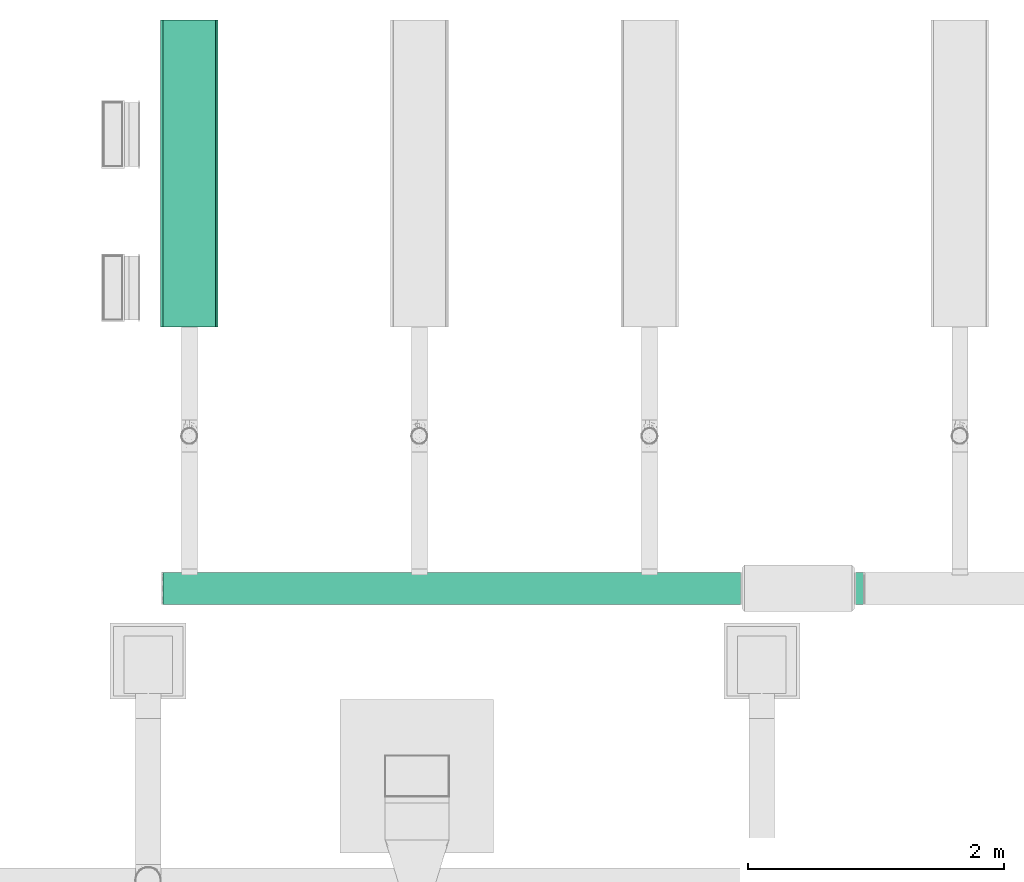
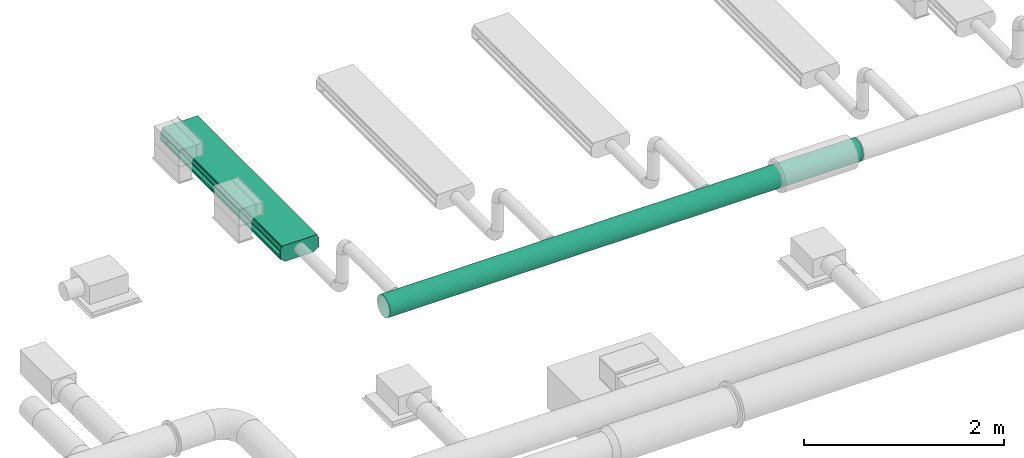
# One storey, part 7 of 36: 1 flow segment, 1 flow terminal.
"""IFC2X3 building model written with IfcOpenShell, lengths in millimetres."""

import ifcopenshell
import ifcopenshell.guid

model = None  # the IFC model being written
_history = None  # IfcOwnerHistory: only IFC2X3 demands one
_inside = {}  # id of a spatial element -> (the spatial element, [elements in it])
_under = {}  # id of a project, library or spatial element -> (it, [spatial elements below it])
_declared = {}  # id of a project -> (the project, [libraries it declares])
_typed = {}  # id of a type object -> (the type object, [elements of that type])
_made_of = {}  # id of a material, layer set ... -> (it, [elements and type objects made of it])


def new_model(schema):
    """Start an empty IFC model of exactly this schema.

    Asked for "IFC4X3", IfcOpenShell would pick the latest addendum, in which some entities
    have other attributes; the version numbers below select the first issue.
    IFC2X3 requires an IfcOwnerHistory on every rooted entity: one is made here for all.
    """
    global model, _history
    if schema == "IFC4X3":
        model = ifcopenshell.file(schema_version=(4, 3, 0, 0))
    else:
        model = ifcopenshell.file(schema=schema)
    _inside.clear()
    _under.clear()
    _declared.clear()
    _typed.clear()
    _made_of.clear()
    _history = None
    if model.schema == "IFC2X3":
        org = make("IfcOrganization", Name="unknown")
        user = make(
            "IfcPersonAndOrganization",
            ThePerson=make("IfcPerson", FamilyName="unknown"),
            TheOrganization=org,
        )
        app = make(
            "IfcApplication",
            ApplicationDeveloper=org,
            Version="unknown",
            ApplicationFullName="unknown",
            ApplicationIdentifier="unknown",
        )
        _history = make(
            "IfcOwnerHistory",
            OwningUser=user,
            OwningApplication=app,
            ChangeAction="ADDED",
            CreationDate=0,
        )
    return model


def make(cls, **values):
    """One entity of the class cls with the attributes given. An attribute that is None is left unset."""
    return model.create_entity(
        cls, **{name: value for name, value in values.items() if value is not None}
    )


def entity(cls, *values):
    """Any entity or typed value of the class cls, its attributes in the order of the schema. None: left unset."""
    e = model.create_entity(cls)
    for i, value in enumerate(values):
        if value is not None:
            e[i] = value
    return e


def rooted(cls, **values):
    """An entity with a GlobalId (a new one), such as an element, a storey or a relation."""
    return make(cls, GlobalId=ifcopenshell.guid.new(), OwnerHistory=_history, **values)


def si_unit(unit_type, name, prefix=None):
    """IfcSIUnit, for example si_unit("LENGTHUNIT", "METRE", prefix="MILLI")."""
    return make("IfcSIUnit", UnitType=unit_type, Prefix=prefix, Name=name)


def converted_unit(unit_type, name, factor, base, dimensions=None, offset=None):
    """IfcConversionBasedUnit, such as the inch: factor (a typed value) times the base unit."""
    return make(
        "IfcConversionBasedUnit"
        if offset is None
        else "IfcConversionBasedUnitWithOffset",
        ConversionOffset=offset,
        Dimensions=None
        if dimensions is None
        else entity("IfcDimensionalExponents", *dimensions),
        UnitType=unit_type,
        Name=name,
        ConversionFactor=make(
            "IfcMeasureWithUnit", ValueComponent=factor, UnitComponent=base
        ),
    )


def derived_unit(unit_type, elements):
    """IfcDerivedUnit: a product of units, each with its exponent."""
    return make(
        "IfcDerivedUnit",
        Elements=[
            make("IfcDerivedUnitElement", Unit=unit, Exponent=power)
            for unit, power in elements
        ],
        UnitType=unit_type,
    )


def assignment(units):
    """IfcUnitAssignment: the units of a project."""
    return None if units is None else make("IfcUnitAssignment", Units=units)


def point(xyz):
    """IfcCartesianPoint."""
    return None if xyz is None else make("IfcCartesianPoint", Coordinates=xyz)


def direction(xyz):
    """IfcDirection."""
    return None if xyz is None else make("IfcDirection", DirectionRatios=xyz)


def frame(location, z_axis=None, x_axis=None):
    """IfcAxis2Placement3D, a coordinate frame: its origin and axes. An axis left out is left unset."""
    return make(
        "IfcAxis2Placement3D",
        Location=point(location),
        Axis=direction(z_axis),
        RefDirection=direction(x_axis),
    )


def frame_2d(location, x_axis=None):
    """IfcAxis2Placement2D, a coordinate frame in the plane: its origin and x axis."""
    return make(
        "IfcAxis2Placement2D", Location=point(location), RefDirection=direction(x_axis)
    )


def origin_with_axes():
    """The frame at (0, 0, 0) with the z axis (0, 0, 1) and the x axis (1, 0, 0) written out."""
    return frame((0.0, 0.0, 0.0), z_axis=(0.0, 0.0, 1.0), x_axis=(1.0, 0.0, 0.0))


def origin_2d_with_axis():
    """The frame at (0, 0) in the plane with the x axis (1, 0) written out."""
    return frame_2d((0.0, 0.0), x_axis=(1.0, 0.0))


def place(relative_to, where):
    """IfcLocalPlacement: puts the frame where relative to a parent placement (None: the world)."""
    return make(
        "IfcLocalPlacement", PlacementRelTo=relative_to, RelativePlacement=where
    )


def context(
    kind, dimensions, precision=None, world=None, true_north=None, identifier=None
):
    """IfcGeometricRepresentationContext, for example the 3D "Model" context."""
    return make(
        "IfcGeometricRepresentationContext",
        ContextIdentifier=identifier,
        ContextType=kind,
        CoordinateSpaceDimension=dimensions,
        Precision=precision,
        WorldCoordinateSystem=world,
        TrueNorth=true_north,
    )


def subcontext(parent, identifier, kind, view, scale=None):
    """IfcGeometricRepresentationSubContext, for example "Body" below "Model"."""
    return make(
        "IfcGeometricRepresentationSubContext",
        ContextIdentifier=identifier,
        ContextType=kind,
        ParentContext=parent,
        TargetScale=scale,
        TargetView=view,
    )


def project(units=None, contexts=None):
    """IfcProject with its units and contexts."""
    return rooted(
        "IfcProject",
        Name="project",
        RepresentationContexts=contexts,
        UnitsInContext=assignment(units),
    )


def spatial(cls, under=None, at=None, **own):
    """A site, building, storey or space (cls), placed at a placement, below another one or the project."""
    s = rooted(cls, ObjectPlacement=at, **own)
    if under is not None:
        _under.setdefault(under.id(), (under, []))[1].append(s)
    return s


def profile(cls, at=None, kind="AREA", **sizes):
    """A parametric profile (cls). Its sizes go by their IFC names, for example OverallWidth=200.0."""
    return make(cls, ProfileType=kind, Position=at, **sizes)


def hollow_circle(**sizes):
    """IfcCircleHollowProfileDef."""
    return profile("IfcCircleHollowProfileDef", **sizes)


def extrude(swept, where, along, depth):
    """IfcExtrudedAreaSolid: the profile swept, set in the frame where, extruded along a direction by depth."""
    return make(
        "IfcExtrudedAreaSolid",
        SweptArea=swept,
        Position=where,
        ExtrudedDirection=direction(along),
        Depth=depth,
    )


def faces_of(points, faces, orient=None, outer=None):
    """IfcFace entities. A face is a list of loops; a loop is a list of indices into points, from 0.

    orient and outer hold one flag for each loop. By default every Orientation is true, the
    first loop of a face is its IfcFaceOuterBound and the others are IfcFaceBound.
    """
    made = []
    for i, loops in enumerate(faces):
        bounds = []
        for j, loop in enumerate(loops):
            is_outer = j == 0 if outer is None else outer[i][j]
            bounds.append(
                make(
                    "IfcFaceOuterBound" if is_outer else "IfcFaceBound",
                    Bound=make("IfcPolyLoop", Polygon=[points[k] for k in loop]),
                    Orientation=True if orient is None else orient[i][j],
                )
            )
        made.append(make("IfcFace", Bounds=bounds))
    return made


def open_shell(faces, orient=None, outer=None):
    """The faces of one IfcOpenShell. surface_model builds it on its shared points."""
    return ("IfcOpenShell", faces, orient, outer)


def surface_model(cls, points, shells):
    """IfcFaceBasedSurfaceModel or IfcShellBasedSurfaceModel (cls): surfaces that need not close."""
    shared = [point(p) for p in points]
    made = [make(c, CfsFaces=faces_of(shared, fs, o, b)) for c, fs, o, b in shells]
    if cls == "IfcFaceBasedSurfaceModel":
        return make(cls, FbsmFaces=made)
    return make(cls, SbsmBoundary=made)


def shape(context_of_items, identifier, shape_type, items):
    """IfcShapeRepresentation: the items that make up one representation, for example the "Body"."""
    return make(
        "IfcShapeRepresentation",
        ContextOfItems=context_of_items,
        RepresentationIdentifier=identifier,
        RepresentationType=shape_type,
        Items=items,
    )


def source(mapping_origin, context_of_items, identifier, shape_type, items):
    """IfcRepresentationMap: a shape defined once, which mapped items show again and again."""
    return make(
        "IfcRepresentationMap",
        MappingOrigin=mapping_origin,
        MappedRepresentation=shape(context_of_items, identifier, shape_type, items),
    )


def transform(
    local_origin,
    x_axis=None,
    y_axis=None,
    z_axis=None,
    scale=None,
    scale2=None,
    scale3=None,
    uniform=True,
):
    """IfcCartesianTransformationOperator3D, or its non-uniform kind. x_axis, y_axis, z_axis: its Axis1, 2, 3."""
    if uniform:
        return make(
            "IfcCartesianTransformationOperator3D",
            Axis1=direction(x_axis),
            Axis2=direction(y_axis),
            LocalOrigin=point(local_origin),
            Scale=scale,
            Axis3=direction(z_axis),
        )
    return make(
        "IfcCartesianTransformationOperator3DnonUniform",
        Axis1=direction(x_axis),
        Axis2=direction(y_axis),
        LocalOrigin=point(local_origin),
        Scale=scale,
        Axis3=direction(z_axis),
        Scale2=scale2,
        Scale3=scale3,
    )


def mapped(mapping_source, mapping_target):
    """IfcMappedItem: shows the shape of a source again, moved by a transform."""
    return make(
        "IfcMappedItem", MappingSource=mapping_source, MappingTarget=mapping_target
    )


def made_of(thing, what):
    """Note that an element or type object is made of a material, layer set ...; save() writes the relation."""
    if what is not None:
        _made_of.setdefault(what.id(), (what, []))[1].append(thing)
    return thing


def type_object(cls, material=None, **own):
    """A type object (cls), such as IfcWallType, which elements share."""
    return made_of(rooted(cls, **own), material)


def element(
    cls,
    number,
    at=None,
    inside=None,
    cuts=None,
    type_object=None,
    material=None,
    context=None,
    identifier="Body",
    shape_type=None,
    held_by="IfcProductDefinitionShape",
    body=None,
    shapes=None,
    **own,
):
    """One element of the class cls, such as IfcWall. Its Tag is "e" and its number.

    at: its placement. inside: the storey or other place that contains it. cuts: it is an
    opening in that element (IfcRelVoidsElement). A single representation is given by context,
    identifier, shape_type and body (its items); several are given by shapes. held_by: the class
    of the entity that holds the representations. save() writes the other relations.
    """
    e = rooted(cls, Tag="e%d" % number, ObjectPlacement=at, **own)
    if body is not None:
        shapes = [shape(context, identifier, shape_type, body)]
    if shapes is not None:
        e.Representation = make(held_by, Representations=shapes)
    if inside is not None:
        _inside.setdefault(inside.id(), (inside, []))[1].append(e)
    if cuts is not None:
        rooted(
            "IfcRelVoidsElement", RelatingBuildingElement=cuts, RelatedOpeningElement=e
        )
    if type_object is not None:
        _typed.setdefault(type_object.id(), (type_object, []))[1].append(e)
    return made_of(e, material)


def aggregate(whole, parts):
    """IfcRelAggregates: a whole, such as a stair, and the parts it consists of."""
    return rooted("IfcRelAggregates", RelatingObject=whole, RelatedObjects=parts)


def save(model, path):
    """Write the relations noted so far, then the file.

    IfcRelAggregates (storeys below a building ...), IfcRelContainedInSpatialStructure (elements
    in a storey), IfcRelDefinesByType, IfcRelAssociatesMaterial and IfcRelDeclares: one each for
    every whole, place, type object, material and project.
    """
    for whole, parts in _under.values():
        aggregate(whole, parts)
    for where, things in _inside.values():
        rooted(
            "IfcRelContainedInSpatialStructure",
            RelatedElements=things,
            RelatingStructure=where,
        )
    for kind, things in _typed.values():
        rooted("IfcRelDefinesByType", RelatedObjects=things, RelatingType=kind)
    for what, things in _made_of.values():
        rooted("IfcRelAssociatesMaterial", RelatedObjects=things, RelatingMaterial=what)
    for by, libraries in _declared.values():
        rooted("IfcRelDeclares", RelatingContext=by, RelatedDefinitions=libraries)
    model.write(path)


model = new_model("IFC2X3")

# Units and contexts
model_context = context("Model", 3, precision=0.01, world=frame((0.0, 4.29681676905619e-09, 0.0)), true_north=direction((4.01073788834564e-13, 1.0)))
plan_context = context("Plan", 3, precision=0.01, world=frame((0.0, 4.29681676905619e-09, 0.0)), true_north=direction((4.01073788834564e-13, 1.0)))
body_context = subcontext(model_context, "Body", "Model", "MODEL_VIEW")
ifc_project = project(units=[converted_unit("PLANEANGLEUNIT", "DEGREE", entity("IfcPositiveLengthMeasure", 0.0174532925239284), si_unit("PLANEANGLEUNIT", "RADIAN"), dimensions=[0, 0, 0, 0, 0, 0, 0]), si_unit("AREAUNIT", "SQUARE_METRE"), si_unit("LENGTHUNIT", "METRE", prefix="MILLI"), si_unit("MASSUNIT", "GRAM", prefix="KILO"), si_unit("POWERUNIT", "WATT"), si_unit("PRESSUREUNIT", "PASCAL"), si_unit("FORCEUNIT", "NEWTON", prefix="KILO"), si_unit("ELECTRICCURRENTUNIT", "AMPERE"), si_unit("THERMODYNAMICTEMPERATUREUNIT", "DEGREE_CELSIUS"), si_unit("TIMEUNIT", "SECOND"), si_unit("VOLUMEUNIT", "CUBIC_METRE"), derived_unit("LINEARVELOCITYUNIT", [(si_unit("LENGTHUNIT", "METRE"), 1), (si_unit("TIMEUNIT", "SECOND"), -1)]), derived_unit("VOLUMETRICFLOWRATEUNIT", [(si_unit("VOLUMEUNIT", "CUBIC_METRE"), 1), (si_unit("TIMEUNIT", "SECOND"), -1)]), derived_unit("THERMALTRANSMITTANCEUNIT", [(si_unit("POWERUNIT", "WATT"), 1), (si_unit("THERMODYNAMICTEMPERATUREUNIT", "KELVIN"), -1), (si_unit("AREAUNIT", "SQUARE_METRE"), -1)])], contexts=[model_context, plan_context])

# Site, building, storey
site_placement = place(None, frame((0.0, -4.29681676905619e-09, 0.0), z_axis=(0.0, 0.0, 1.0), x_axis=(1.0, 0.0, 0.0)))
site = spatial("IfcSite", under=ifc_project, at=site_placement, CompositionType="ELEMENT")
building_placement = place(site_placement, frame((0.0, 4.29681676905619e-09, 0.0), z_axis=(0.0, 0.0, 1.0), x_axis=(1.0, 0.0, 0.0)))
building = spatial("IfcBuilding", under=site, at=building_placement, Name="mc-building", CompositionType="ELEMENT")
storey_placement = place(building_placement, frame((0.0, 0.0, 204000.0), z_axis=(0.0, 0.0, 1.0), x_axis=(1.0, 0.0, 0.0)))
storey = spatial("IfcBuildingStorey", under=building, at=storey_placement, Name="Nivå D", CompositionType="ELEMENT", Elevation=204000.0)

# Flow segment
duct_segment_type = type_object("IfcDuctSegmentType", Name="2 - Spiro kanaler, Forsinket stål", PredefinedType="RIGIDSEGMENT")
shared_shape_1 = source(origin_with_axes(), body_context, "Body", "SweptSolid", [
    extrude(hollow_circle(Radius=125.0, WallThickness=2.0, at=origin_2d_with_axis()), frame((0.0, 0.0, 0.0), z_axis=(1.0, 0.0, 0.0), x_axis=(0.0, 1.0, 0.0)), (0.0, 0.0, 1.0), 5478.8),
])
flow_segment_placement = place(storey_placement, frame((521012.54222, 416568.96658, 3200.0), z_axis=(0.0, 0.0, 1.0), x_axis=(1.0, 0.0, 0.0)))
element("IfcFlowSegment", 1, at=flow_segment_placement, inside=storey, type_object=duct_segment_type, Name="2 - Spiro kanaler, Forsinket stål", context=body_context, shape_type="MappedRepresentation", body=[
    mapped(shared_shape_1, transform((0.0, 0.0, 0.0), scale=1.0)),
])

# Flow terminal
air_terminal_type = type_object("IfcAirTerminalType", Name="KBF-1-450-2400-A", PredefinedType="NOTDEFINED")
shared_shape_2 = source(origin_with_axes(), body_context, "Body", "SurfaceModel", [
    surface_model("IfcShellBasedSurfaceModel", [(1159.99998, 155.0, -200.1), (-1159.99998, -155.0, -200.1), (-1159.99998, 155.0, -200.1), (1159.99998, -155.0, -200.1), (-1159.99998, -155.0, -199.90001), (1159.99998, -155.0, -199.90001), (1159.99998, 155.0, -199.90001), (-1159.99998, 155.0, -199.90001), (1189.99997, -164.99999, -197.9), (1189.99997, 164.99999, -197.9), (1188.00001, 164.99999, -197.9), (1188.00001, -164.99999, -197.9), (1188.00001, 164.99999, -198.10001), (1189.99997, -164.99999, -198.10001), (1188.00001, -164.99999, -198.10001), (1189.99997, 164.99999, -198.10001), (1187.90002, 164.99999, -200.0), (1187.90002, -164.99999, -200.0), (1187.90002, -164.99999, -198.0), (1187.90002, 164.99999, -198.0), (1188.10001, -164.99999, -198.0), (1188.10001, 164.99999, -200.0), (1188.10001, 164.99999, -198.0), (1188.10001, -164.99999, -200.0), (1189.89997, 164.99999, -200.0), (1189.89997, -164.99999, -200.0), (1189.89997, -164.99999, -198.0), (1189.89997, 164.99999, -198.0), (1190.10003, -164.99999, -198.0), (1190.10003, 164.99999, -200.0), (1190.10003, 164.99999, -198.0), (1190.10003, -164.99999, -200.0), (1200.0, -164.99999, -199.90001), (1200.0, 164.99999, -199.90001), (1189.99997, 164.99999, -199.90001), (1189.99997, -164.99999, -199.90001), (1189.99997, 164.99999, -200.1), (1200.0, -164.99999, -200.1), (1189.99997, -164.99999, -200.1), (1200.0, 164.99999, -200.1), (-1189.99997, -164.99999, -198.10001), (-1189.99997, 164.99999, -198.10001), (-1188.00001, 164.99999, -198.10001), (-1188.00001, -164.99999, -198.10001), (-1188.00001, 164.99999, -197.9), (-1189.99997, -164.99999, -197.9), (-1188.00001, -164.99999, -197.9), (-1189.99997, 164.99999, -197.9), (-1188.10001, 164.99999, -200.0), (-1188.10001, -164.99999, -200.0), (-1188.10001, -164.99999, -198.0), (-1188.10001, 164.99999, -198.0), (-1187.90002, -164.99999, -198.0), (-1187.90002, 164.99999, -200.0), (-1187.90002, 164.99999, -198.0), (-1187.90002, -164.99999, -200.0), (-1190.10003, 164.99999, -200.0), (-1190.10003, -164.99999, -200.0), (-1190.10003, -164.99999, -198.0), (-1190.10003, 164.99999, -198.0), (-1189.89997, -164.99999, -198.0), (-1189.89997, 164.99999, -200.0), (-1189.89997, 164.99999, -198.0), (-1189.89997, -164.99999, -200.0), (-1200.0, -164.99999, -200.1), (-1200.0, 164.99999, -200.1), (-1189.99997, 164.99999, -200.1), (-1189.99997, -164.99999, -200.1), (-1189.99997, 164.99999, -199.90001), (-1200.0, -164.99999, -199.90001), (-1189.99997, -164.99999, -199.90001), (-1200.0, 164.99999, -199.90001), (1188.00001, -164.99999, -199.90001), (1188.00001, 164.99999, -199.90001), (1159.99998, 164.99999, -199.90001), (1159.99998, -164.99999, -199.90001), (1159.99998, 164.99999, -200.1), (1188.00001, -164.99999, -200.1), (1159.99998, -164.99999, -200.1), (1188.00001, 164.99999, -200.1), (-1188.00001, -164.99999, -200.1), (-1188.00001, 164.99999, -200.1), (-1159.99998, 164.99999, -200.1), (-1159.99998, -164.99999, -200.1), (-1159.99998, 164.99999, -199.90001), (-1188.00001, -164.99999, -199.90001), (-1159.99998, -164.99999, -199.90001), (-1188.00001, 164.99999, -199.90001), (1189.99997, -224.90001, -155.0), (-1189.99997, -224.90001, -155.0), (-1189.99997, -224.90001, -135.0), (1189.99997, -224.90001, -135.0), (-1189.99997, -225.1, -155.0), (1189.99997, -225.1, -155.0), (1189.99997, -225.1, -135.0), (-1189.99997, -225.1, -135.0), (1189.99997, 225.1, -155.0), (-1189.99997, 225.1, -155.0), (-1189.99997, 225.1, -135.0), (1189.99997, 225.1, -135.0), (-1189.99997, 224.90001, -155.0), (1189.99997, 224.90001, -155.0), (1189.99997, 224.90001, -135.0), (-1189.99997, 224.90001, -135.0), (-1200.0, -224.91885, -45.05843), (1200.0, -206.91884, -20.05843), (1200.0, -224.91885, -45.05843), (-1200.0, -206.91884, -20.05843), (1200.0, -225.08116, -44.94157), (-1200.0, -207.08115, -19.94157), (-1200.0, -225.08116, -44.94157), (1200.0, -207.08115, -19.94157), (-1200.0, 225.08116, -44.94157), (1200.0, 207.08115, -19.94157), (1200.0, 225.08116, -44.94157), (-1200.0, 207.08115, -19.94157), (1200.0, 224.91885, -45.05843), (-1200.0, 206.91884, -20.05843), (-1200.0, 224.91885, -45.05843), (1200.0, 206.91884, -20.05843), (1200.0, -224.90001, -155.0), (1189.99997, -224.90001, -45.0), (1200.0, -224.90001, -45.0), (1189.99997, -225.1, -45.0), (1200.0, -225.1, -155.0), (1200.0, -225.1, -45.0), (1200.0, 225.1, -155.0), (1189.99997, 225.1, -45.0), (1200.0, 225.1, -45.0), (1189.99997, 224.90001, -45.0), (1200.0, 224.90001, -155.0), (1200.0, 224.90001, -45.0), (-1200.0, -224.90001, -155.0), (-1200.0, -224.90001, -45.0), (-1189.99997, -224.90001, -45.0), (-1200.0, -225.1, -45.0), (-1189.99997, -225.1, -45.0), (-1200.0, -225.1, -155.0), (-1200.0, 225.1, -155.0), (-1200.0, 225.1, -45.0), (-1189.99997, 225.1, -45.0), (-1200.0, 224.90001, -45.0), (-1189.99997, 224.90001, -45.0), (-1200.0, 224.90001, -155.0), (1189.99997, -224.90001, -65.0), (-1189.99997, -224.90001, -65.0), (-1189.99997, -225.1, -65.0), (1189.99997, -225.1, -65.0), (1189.99997, 225.1, -65.0), (-1189.99997, 225.1, -65.0), (-1189.99997, 224.90001, -65.0), (1189.99997, 224.90001, -65.0), (1188.00001, -222.9411, -154.91918), (1189.99997, -163.9411, -197.91919), (1188.00001, -163.9411, -197.91919), (1189.99997, -222.9411, -154.91918), (1189.99997, -164.0589, -198.08081), (1189.99997, -223.0589, -155.08081), (1188.00001, -223.0589, -155.08081), (1188.00001, -164.0589, -198.08081), (1188.10001, -223.0, -155.0), (1188.10001, -161.0, -200.0), (1188.10001, -225.0, -155.0), (1187.90002, -225.0, -155.0), (1187.90002, -223.0, -155.0), (1187.90002, -161.0, -200.0), (1190.10003, -223.0, -155.0), (1190.10003, -161.0, -200.0), (1190.10003, -225.0, -155.0), (1189.89997, -225.0, -155.0), (1189.89997, -223.0, -155.0), (1189.89997, -161.0, -200.0), (1189.99997, -164.94, -199.91999), (1200.0, -224.93999, -154.92), (1200.0, -164.94, -199.91999), (1189.99997, -224.93999, -154.92), (1200.0, -225.06001, -155.08), (1189.99997, -225.06001, -155.08), (1189.99997, -165.06, -200.07999), (1200.0, -165.06, -200.07999), (-1189.67782, -222.37004, -154.10665), (-1187.94965, -162.94966, -197.92976), (-1189.94968, -160.94966, -197.92976), (-1187.94965, -222.94967, -154.92977), (-1188.0503, -163.05033, -198.07023), (-1188.0503, -223.05034, -155.07024), (-1189.77847, -222.4707, -154.24713), (-1190.05033, -161.05033, -198.07023), (-1189.89997, -223.0, -155.0), (-1189.89997, -161.0, -200.0), (-1189.89997, -225.0, -155.0), (-1190.10003, -225.0, -155.0), (-1190.10003, -223.0, -155.0), (-1190.10003, -161.0, -200.0), (-1187.90002, -223.0, -155.0), (-1187.90002, -161.0, -200.0), (-1187.90002, -225.0, -155.0), (-1188.10001, -225.0, -155.0), (-1188.10001, -223.0, -155.0), (-1188.10001, -161.0, -200.0), (-1200.0, -224.93999, -154.92), (-1189.99997, -224.93999, -154.92), (-1189.99997, -164.94, -199.91999), (-1200.0, -164.94, -199.91999), (-1189.99997, -225.06001, -155.08), (-1200.0, -225.06001, -155.08), (-1200.0, -165.06, -200.07999), (-1189.99997, -165.06, -200.07999), (-1188.00001, -164.94, -199.91999), (1188.00001, -224.93999, -154.92), (1188.00001, -164.94, -199.91999), (-1188.00001, -224.93999, -154.92), (1188.00001, -225.06001, -155.08), (-1188.00001, -225.06001, -155.08), (-1188.00001, -165.06, -200.07999), (1188.00001, -165.06, -200.07999), (1188.00001, 223.0589, -155.08081), (1189.99997, 164.0589, -198.08081), (1188.00001, 164.0589, -198.08081), (1189.99997, 223.0589, -155.08081), (1189.99997, 163.9411, -197.91919), (1189.99997, 222.9411, -154.91918), (1188.00001, 222.9411, -154.91918), (1188.00001, 163.9411, -197.91919), (1187.90002, 223.0, -155.0), (1187.90002, 161.0, -200.0), (1187.90002, 225.0, -155.0), (1188.10001, 225.0, -155.0), (1188.10001, 223.0, -155.0), (1188.10001, 161.0, -200.0), (1189.89997, 223.0, -155.0), (1189.89997, 161.0, -200.0), (1189.89997, 225.0, -155.0), (1190.10003, 225.0, -155.0), (1190.10003, 223.0, -155.0), (1190.10003, 161.0, -200.0), (1189.99997, 165.06, -200.07999), (1200.0, 225.06001, -155.08), (1200.0, 165.06, -200.07999), (1189.99997, 225.06001, -155.08), (1200.0, 224.93999, -154.92), (1189.99997, 224.93999, -154.92), (1189.99997, 164.94, -199.91999), (1200.0, 164.94, -199.91999), (-1189.77847, 222.4707, -154.24713), (-1188.0503, 163.05033, -198.07023), (-1190.05033, 161.05033, -198.07023), (-1188.0503, 223.05034, -155.07024), (-1187.94965, 162.94966, -197.92976), (-1187.94965, 222.94967, -154.92977), (-1189.67782, 222.37004, -154.10665), (-1189.94968, 160.94966, -197.92976), (-1190.10003, 223.0, -155.0), (-1190.10003, 161.0, -200.0), (-1190.10003, 225.0, -155.0), (-1189.89997, 225.0, -155.0), (-1189.89997, 223.0, -155.0), (-1189.89997, 161.0, -200.0), (-1188.10001, 223.0, -155.0), (-1188.10001, 161.0, -200.0), (-1188.10001, 225.0, -155.0), (-1187.90002, 225.0, -155.0), (-1187.90002, 223.0, -155.0), (-1187.90002, 161.0, -200.0), (-1200.0, 225.06001, -155.08), (-1189.99997, 225.06001, -155.08), (-1189.99997, 165.06, -200.07999), (-1200.0, 165.06, -200.07999), (-1189.99997, 224.93999, -154.92), (-1200.0, 224.93999, -154.92), (-1200.0, 164.94, -199.91999), (-1189.99997, 164.94, -199.91999), (-1188.00001, 165.06, -200.07999), (1188.00001, 225.06001, -155.08), (1188.00001, 165.06, -200.07999), (-1188.00001, 225.06001, -155.08), (1188.00001, 224.93999, -154.92), (-1188.00001, 224.93999, -154.92), (-1188.00001, 164.94, -199.91999), (1188.00001, 164.94, -199.91999), (1200.0, -205.0, -19.9), (-1200.0, -205.0, -19.9), (-1200.0, -206.99999, -19.9), (1200.0, -206.99999, -19.9), (-1200.0, -205.0, -20.1), (1200.0, -205.0, -20.1), (1200.0, -206.99999, -20.1), (-1200.0, -206.99999, -20.1), (1200.0, 205.0, -20.1), (-1200.0, 205.0, -20.1), (-1200.0, 206.99999, -20.1), (1200.0, 206.99999, -20.1), (-1200.0, 205.0, -19.9), (1200.0, 205.0, -19.9), (1200.0, 206.99999, -19.9), (-1200.0, 206.99999, -19.9), (1199.90002, -164.99999, -200.0), (1199.90002, 225.0, -155.0), (1199.90002, 164.99999, -200.0), (1199.90002, -225.0, -155.0), (1200.1, 225.0, -155.0), (1200.1, -225.0, -155.0), (1200.1, -164.99999, -200.0), (1200.1, 164.99999, -200.0), (-1200.1, -164.99999, -200.0), (-1200.1, 225.0, -155.0), (-1200.1, 164.99999, -200.0), (-1200.1, -225.0, -155.0), (-1199.90002, 225.0, -155.0), (-1199.90002, -225.0, -155.0), (-1199.90002, -164.99999, -200.0), (-1199.90002, 164.99999, -200.0), (1199.90002, -225.0, -45.0), (1199.90002, 225.0, -45.0), (1200.1, -225.0, -45.0), (1200.1, 225.0, -45.0), (-1200.1, -225.0, -45.0), (-1200.1, 225.0, -45.0), (-1199.90002, -225.0, -45.0), (-1199.90002, 225.0, -45.0), (1199.90002, 206.99999, -20.0), (1199.90002, -206.99999, -20.0), (1200.1, 206.99999, -20.0), (1200.1, -206.99999, -20.0), (-1200.1, 206.99999, -20.0), (-1200.1, -206.99999, -20.0), (-1199.90002, 206.99999, -20.0), (-1199.90002, -206.99999, -20.0), (-1200.0, -16.12443, -152.17718), (-1200.0, 31.15, -145.95338), (-1200.0, -31.15, -145.95338), (-1200.0, -44.05275, -136.05275), (-1200.0, -53.95338, -123.15), (-1200.0, -60.17718, -108.12442), (-1200.0, 60.17718, -108.12442), (-1200.0, 60.17718, -75.87557), (-1200.0, 16.12443, -152.17718), (-1200.0, 0.0, -154.29999), (-1200.0, 44.05275, -136.05275), (-1200.0, 53.95338, -123.15), (-1200.0, -60.17718, -75.87557), (-1200.0, -62.3, -92.0), (-1200.0, -44.05275, -47.94725), (-1200.0, -53.95338, -60.85), (-1200.0, -31.15, -38.04662), (-1200.0, 0.0, -29.7), (-1200.0, -16.12443, -31.82282), (-1200.0, 44.05275, -47.94725), (-1200.0, 53.95338, -60.85), (-1200.0, 62.3, -92.0), (-1200.0, 31.15, -38.04662), (-1200.0, 16.12443, -31.82282), (-1200.2, -31.15, -38.04662), (-1200.2, -16.12443, -31.82282), (-1200.2, 0.0, -29.7), (-1200.2, 60.17718, -75.87557), (-1200.2, -60.17718, -75.87557), (-1200.2, -53.95338, -60.85), (-1200.2, -44.05275, -47.94725), (-1200.2, 62.3, -92.0), (-1200.2, 31.15, -38.04662), (-1200.2, 44.05275, -47.94725), (-1200.2, 16.12443, -31.82282), (-1200.2, 53.95338, -60.85), (-1200.2, -62.3, -92.0), (-1200.2, 31.15, -145.95338), (-1200.2, -60.17718, -108.12442), (-1200.2, -53.95338, -123.15), (-1200.2, -31.15, -145.95338), (-1200.2, -44.05275, -136.05275), (-1200.2, 16.12443, -152.17718), (-1200.2, -16.12443, -152.17718), (-1200.2, 44.05275, -136.05275), (-1200.2, 53.95338, -123.15), (-1200.2, 60.17718, -108.12442), (-1200.2, 0.0, -154.29999), (1200.0, 205.0, 0.0), (-1200.0, 205.0, 0.0), (-1200.0, -205.0, 0.0), (1200.0, -205.0, 0.0), (-1200.0, 205.0, -20.0), (1200.0, 205.0, -20.0), (1200.0, -205.0, -20.0), (-1200.0, -205.0, -20.0)], [open_shell([[[0, 1, 2]], [[1, 0, 3]], [[4, 5, 6]], [[6, 7, 4]], [[4, 1, 3]], [[3, 5, 4]], [[5, 3, 0]], [[0, 6, 5]], [[6, 0, 2]], [[2, 7, 6]], [[7, 2, 1]], [[1, 4, 7]], [[8, 9, 10]], [[10, 11, 8]], [[12, 13, 14]], [[13, 12, 15]], [[15, 9, 8]], [[8, 13, 15]], [[13, 8, 11]], [[11, 14, 13]], [[14, 11, 10]], [[10, 12, 14]], [[12, 10, 9]], [[9, 15, 12]], [[16, 17, 18]], [[18, 19, 16]], [[20, 21, 22]], [[21, 20, 23]], [[23, 17, 16]], [[16, 21, 23]], [[21, 16, 19]], [[19, 22, 21]], [[22, 19, 18]], [[18, 20, 22]], [[20, 18, 17]], [[17, 23, 20]], [[24, 25, 26]], [[26, 27, 24]], [[28, 29, 30]], [[29, 28, 31]], [[31, 25, 24]], [[24, 29, 31]], [[29, 24, 27]], [[27, 30, 29]], [[30, 27, 26]], [[26, 28, 30]], [[28, 26, 25]], [[25, 31, 28]], [[32, 33, 34]], [[34, 35, 32]], [[36, 37, 38]], [[37, 36, 39]], [[39, 33, 32]], [[32, 37, 39]], [[37, 32, 35]], [[35, 38, 37]], [[38, 35, 34]], [[34, 36, 38]], [[36, 34, 33]], [[33, 39, 36]], [[40, 41, 42]], [[42, 43, 40]], [[44, 45, 46]], [[45, 44, 47]], [[47, 41, 40]], [[40, 45, 47]], [[45, 40, 43]], [[43, 46, 45]], [[46, 43, 42]], [[42, 44, 46]], [[44, 42, 41]], [[41, 47, 44]], [[48, 49, 50]], [[50, 51, 48]], [[52, 53, 54]], [[53, 52, 55]], [[55, 49, 48]], [[48, 53, 55]], [[53, 48, 51]], [[51, 54, 53]], [[54, 51, 50]], [[50, 52, 54]], [[52, 50, 49]], [[49, 55, 52]], [[56, 57, 58]], [[58, 59, 56]], [[60, 61, 62]], [[61, 60, 63]], [[63, 57, 56]], [[56, 61, 63]], [[61, 56, 59]], [[59, 62, 61]], [[62, 59, 58]], [[58, 60, 62]], [[60, 58, 57]], [[57, 63, 60]], [[64, 65, 66]], [[66, 67, 64]], [[68, 69, 70]], [[69, 68, 71]], [[71, 65, 64]], [[64, 69, 71]], [[69, 64, 67]], [[67, 70, 69]], [[70, 67, 66]], [[66, 68, 70]], [[68, 66, 65]], [[65, 71, 68]], [[72, 73, 74]], [[74, 75, 72]], [[76, 77, 78]], [[77, 76, 79]], [[79, 73, 72]], [[72, 77, 79]], [[77, 72, 75]], [[75, 78, 77]], [[78, 75, 74]], [[74, 76, 78]], [[76, 74, 73]], [[73, 79, 76]], [[80, 81, 82]], [[82, 83, 80]], [[84, 85, 86]], [[85, 84, 87]], [[87, 81, 80]], [[80, 85, 87]], [[85, 80, 83]], [[83, 86, 85]], [[86, 83, 82]], [[82, 84, 86]], [[84, 82, 81]], [[81, 87, 84]], [[5, 4, 86]], [[86, 75, 5]], [[1, 3, 78]], [[78, 83, 1]], [[1, 4, 5]], [[5, 3, 1]], [[3, 5, 75]], [[75, 78, 3]], [[78, 75, 86]], [[86, 83, 78]], [[83, 86, 4]], [[4, 1, 83]], [[0, 2, 82]], [[82, 76, 0]], [[7, 6, 74]], [[74, 84, 7]], [[7, 2, 0]], [[0, 6, 7]], [[6, 0, 76]], [[76, 74, 6]], [[74, 76, 82]], [[82, 84, 74]], [[84, 82, 2]], [[2, 7, 84]], [[88, 89, 90]], [[90, 91, 88]], [[92, 93, 94]], [[94, 95, 92]], [[92, 89, 88]], [[88, 93, 92]], [[93, 88, 91]], [[91, 94, 93]], [[94, 91, 90]], [[90, 95, 94]], [[95, 90, 89]], [[89, 92, 95]], [[96, 97, 98]], [[98, 99, 96]], [[100, 101, 102]], [[102, 103, 100]], [[100, 97, 96]], [[96, 101, 100]], [[101, 96, 99]], [[99, 102, 101]], [[102, 99, 98]], [[98, 103, 102]], [[103, 98, 97]], [[97, 100, 103]], [[104, 105, 106]], [[105, 104, 107]], [[108, 109, 110]], [[109, 108, 111]], [[111, 105, 107]], [[107, 109, 111]], [[109, 107, 104]], [[104, 110, 109]], [[110, 104, 106]], [[106, 108, 110]], [[111, 106, 105]], [[106, 111, 108]], [[112, 113, 114]], [[113, 112, 115]], [[116, 117, 118]], [[117, 116, 119]], [[119, 113, 115]], [[115, 117, 119]], [[118, 115, 112]], [[115, 118, 117]], [[118, 112, 114]], [[114, 116, 118]], [[116, 114, 113]], [[113, 119, 116]], [[120, 88, 121]], [[121, 122, 120]], [[123, 124, 125]], [[124, 123, 93]], [[93, 88, 120]], [[120, 124, 93]], [[124, 120, 122]], [[122, 125, 124]], [[125, 122, 121]], [[121, 123, 125]], [[93, 121, 88]], [[121, 93, 123]], [[126, 96, 127]], [[127, 128, 126]], [[129, 130, 131]], [[130, 129, 101]], [[101, 96, 126]], [[126, 130, 101]], [[130, 126, 128]], [[128, 131, 130]], [[131, 128, 127]], [[127, 129, 131]], [[101, 127, 96]], [[127, 101, 129]], [[89, 132, 133]], [[133, 134, 89]], [[135, 92, 136]], [[92, 135, 137]], [[137, 132, 89]], [[89, 92, 137]], [[92, 89, 134]], [[134, 136, 92]], [[136, 134, 133]], [[133, 135, 136]], [[137, 133, 132]], [[133, 137, 135]], [[97, 138, 139]], [[139, 140, 97]], [[141, 100, 142]], [[100, 141, 143]], [[143, 138, 97]], [[97, 100, 143]], [[100, 97, 140]], [[140, 142, 100]], [[142, 140, 139]], [[139, 141, 142]], [[143, 139, 138]], [[139, 143, 141]], [[144, 145, 134]], [[134, 121, 144]], [[146, 147, 123]], [[123, 136, 146]], [[146, 145, 144]], [[144, 147, 146]], [[147, 144, 121]], [[121, 123, 147]], [[123, 121, 134]], [[134, 136, 123]], [[136, 134, 145]], [[145, 146, 136]], [[148, 149, 140]], [[140, 127, 148]], [[150, 151, 129]], [[129, 142, 150]], [[150, 149, 148]], [[148, 151, 150]], [[151, 148, 127]], [[127, 129, 151]], [[129, 127, 140]], [[140, 142, 129]], [[142, 140, 149]], [[149, 150, 142]], [[152, 153, 154]], [[153, 152, 155]], [[156, 157, 158]], [[158, 159, 156]], [[156, 153, 155]], [[155, 157, 156]], [[158, 155, 152]], [[155, 158, 157]], [[158, 152, 154]], [[154, 159, 158]], [[159, 154, 153]], [[153, 156, 159]], [[160, 23, 161]], [[23, 160, 162]], [[17, 163, 164]], [[164, 165, 17]], [[17, 23, 162]], [[162, 163, 17]], [[163, 162, 160]], [[160, 164, 163]], [[164, 160, 161]], [[161, 165, 164]], [[165, 161, 23]], [[23, 17, 165]], [[166, 31, 167]], [[31, 166, 168]], [[25, 169, 170]], [[170, 171, 25]], [[25, 31, 168]], [[168, 169, 25]], [[169, 168, 166]], [[166, 170, 169]], [[170, 166, 167]], [[167, 171, 170]], [[171, 167, 31]], [[31, 25, 171]], [[172, 173, 174]], [[173, 172, 175]], [[176, 177, 178]], [[178, 179, 176]], [[176, 173, 175]], [[175, 177, 176]], [[178, 175, 172]], [[175, 178, 177]], [[178, 172, 174]], [[174, 179, 178]], [[179, 174, 173]], [[173, 176, 179]], [[180, 181, 182]], [[181, 180, 183]], [[184, 185, 186]], [[186, 187, 184]], [[184, 181, 183]], [[183, 185, 184]], [[185, 183, 180]], [[180, 186, 185]], [[187, 180, 182]], [[180, 187, 186]], [[187, 182, 181]], [[181, 184, 187]], [[188, 63, 189]], [[63, 188, 190]], [[57, 191, 192]], [[192, 193, 57]], [[57, 63, 190]], [[190, 191, 57]], [[191, 190, 188]], [[188, 192, 191]], [[192, 188, 189]], [[189, 193, 192]], [[57, 189, 63]], [[189, 57, 193]], [[194, 55, 195]], [[55, 194, 196]], [[49, 197, 198]], [[198, 199, 49]], [[49, 55, 196]], [[196, 197, 49]], [[197, 196, 194]], [[194, 198, 197]], [[198, 194, 195]], [[195, 199, 198]], [[49, 195, 55]], [[195, 49, 199]], [[200, 201, 202]], [[202, 203, 200]], [[204, 205, 206]], [[206, 207, 204]], [[204, 201, 200]], [[200, 205, 204]], [[205, 200, 203]], [[203, 206, 205]], [[206, 203, 202]], [[202, 207, 206]], [[204, 202, 201]], [[202, 204, 207]], [[208, 209, 210]], [[209, 208, 211]], [[212, 213, 214]], [[214, 215, 212]], [[212, 209, 211]], [[211, 213, 212]], [[214, 211, 208]], [[211, 214, 213]], [[214, 208, 210]], [[210, 215, 214]], [[215, 210, 209]], [[209, 212, 215]], [[216, 217, 218]], [[217, 216, 219]], [[220, 221, 222]], [[222, 223, 220]], [[221, 217, 219]], [[217, 221, 220]], [[221, 219, 216]], [[216, 222, 221]], [[222, 216, 218]], [[218, 223, 222]], [[223, 218, 217]], [[217, 220, 223]], [[224, 16, 225]], [[16, 224, 226]], [[21, 227, 228]], [[228, 229, 21]], [[21, 16, 226]], [[226, 227, 21]], [[227, 226, 224]], [[224, 228, 227]], [[228, 224, 225]], [[225, 229, 228]], [[229, 225, 16]], [[16, 21, 229]], [[230, 24, 231]], [[24, 230, 232]], [[29, 233, 234]], [[234, 235, 29]], [[29, 24, 232]], [[232, 233, 29]], [[233, 232, 230]], [[230, 234, 233]], [[234, 230, 231]], [[231, 235, 234]], [[235, 231, 24]], [[24, 29, 235]], [[236, 237, 238]], [[237, 236, 239]], [[240, 241, 242]], [[242, 243, 240]], [[240, 237, 239]], [[239, 241, 240]], [[242, 239, 236]], [[239, 242, 241]], [[242, 236, 238]], [[238, 243, 242]], [[240, 238, 237]], [[238, 240, 243]], [[244, 245, 246]], [[245, 244, 247]], [[248, 249, 250]], [[250, 251, 248]], [[248, 245, 247]], [[247, 249, 248]], [[249, 247, 244]], [[244, 250, 249]], [[250, 244, 246]], [[246, 251, 250]], [[248, 246, 245]], [[246, 248, 251]], [[252, 56, 253]], [[56, 252, 254]], [[61, 255, 256]], [[256, 257, 61]], [[61, 56, 254]], [[254, 255, 61]], [[255, 254, 252]], [[252, 256, 255]], [[256, 252, 253]], [[253, 257, 256]], [[61, 253, 56]], [[253, 61, 257]], [[258, 48, 259]], [[48, 258, 260]], [[53, 261, 262]], [[262, 263, 53]], [[53, 48, 260]], [[260, 261, 53]], [[261, 260, 258]], [[258, 262, 261]], [[262, 258, 259]], [[259, 263, 262]], [[53, 259, 48]], [[259, 53, 263]], [[264, 265, 266]], [[266, 267, 264]], [[268, 269, 270]], [[270, 271, 268]], [[268, 265, 264]], [[264, 269, 268]], [[270, 264, 267]], [[264, 270, 269]], [[270, 267, 266]], [[266, 271, 270]], [[271, 266, 265]], [[265, 268, 271]], [[272, 273, 274]], [[273, 272, 275]], [[276, 277, 278]], [[278, 279, 276]], [[276, 273, 275]], [[275, 277, 276]], [[278, 275, 272]], [[275, 278, 277]], [[278, 272, 274]], [[274, 279, 278]], [[279, 274, 273]], [[273, 276, 279]], [[280, 281, 282]], [[282, 283, 280]], [[284, 285, 286]], [[286, 287, 284]], [[284, 281, 280]], [[280, 285, 284]], [[286, 280, 283]], [[280, 286, 285]], [[286, 283, 282]], [[282, 287, 286]], [[284, 282, 281]], [[282, 284, 287]], [[288, 289, 290]], [[290, 291, 288]], [[292, 293, 294]], [[294, 295, 292]], [[292, 289, 288]], [[288, 293, 292]], [[294, 288, 291]], [[288, 294, 293]], [[294, 291, 290]], [[290, 295, 294]], [[292, 290, 289]], [[290, 292, 295]], [[296, 297, 298]], [[297, 296, 299]], [[300, 301, 302]], [[302, 303, 300]], [[300, 297, 299]], [[299, 301, 300]], [[302, 299, 296]], [[299, 302, 301]], [[302, 296, 298]], [[298, 303, 302]], [[303, 298, 297]], [[297, 300, 303]], [[304, 305, 306]], [[305, 304, 307]], [[308, 309, 310]], [[310, 311, 308]], [[308, 305, 307]], [[307, 309, 308]], [[310, 307, 304]], [[307, 310, 309]], [[310, 304, 306]], [[306, 311, 310]], [[311, 306, 305]], [[305, 308, 311]], [[297, 299, 312]], [[312, 313, 297]], [[314, 300, 315]], [[300, 314, 301]], [[300, 299, 297]], [[299, 300, 301]], [[300, 297, 313]], [[313, 315, 300]], [[314, 313, 312]], [[313, 314, 315]], [[314, 312, 299]], [[299, 301, 314]], [[305, 307, 316]], [[316, 317, 305]], [[318, 308, 319]], [[308, 318, 309]], [[308, 307, 305]], [[307, 308, 309]], [[308, 305, 317]], [[317, 319, 308]], [[318, 317, 316]], [[317, 318, 319]], [[318, 316, 307]], [[307, 309, 318]], [[312, 320, 313]], [[320, 312, 321]], [[322, 323, 314]], [[314, 315, 322]], [[322, 320, 321]], [[321, 323, 322]], [[323, 321, 312]], [[312, 314, 323]], [[314, 312, 313]], [[313, 315, 314]], [[315, 313, 320]], [[320, 322, 315]], [[316, 324, 317]], [[324, 316, 325]], [[326, 327, 318]], [[318, 319, 326]], [[326, 324, 325]], [[325, 327, 326]], [[327, 325, 316]], [[316, 318, 327]], [[318, 316, 317]], [[317, 319, 318]], [[319, 317, 324]], [[324, 326, 319]], [[328, 329, 330]], [[331, 330, 332]], [[329, 333, 330]], [[332, 330, 333]], [[334, 335, 333]], [[336, 329, 328]], [[328, 337, 336]], [[338, 339, 329]], [[334, 329, 339]], [[333, 329, 334]], [[340, 341, 333]], [[342, 343, 340]], [[344, 342, 340]], [[345, 346, 344]], [[340, 345, 344]], [[347, 345, 340]], [[348, 347, 335]], [[335, 334, 349]], [[350, 351, 347]], [[347, 333, 335]], [[345, 347, 351]], [[347, 340, 333]], [[352, 353, 354]], [[352, 354, 355]], [[356, 357, 358]], [[358, 352, 355]], [[356, 358, 359]], [[360, 361, 362]], [[361, 354, 362]], [[363, 355, 361]], [[361, 355, 354]], [[355, 359, 358]], [[359, 364, 356]], [[364, 365, 366]], [[366, 365, 367]], [[365, 368, 367]], [[369, 367, 368]], [[370, 371, 368]], [[372, 365, 373]], [[374, 373, 365]], [[374, 365, 364]], [[365, 370, 368]], [[370, 375, 371]], [[359, 374, 364]], [[359, 334, 374]], [[374, 339, 373]], [[365, 372, 329]], [[338, 372, 373]], [[370, 365, 336]], [[334, 339, 374]], [[359, 349, 334]], [[365, 329, 336]], [[329, 372, 338]], [[373, 339, 338]], [[370, 336, 337]], [[337, 375, 370]], [[375, 328, 371]], [[371, 330, 368]], [[367, 369, 332]], [[331, 369, 368]], [[366, 367, 333]], [[330, 331, 368]], [[371, 328, 330]], [[366, 333, 341]], [[333, 367, 332]], [[369, 331, 332]], [[366, 341, 364]], [[337, 328, 375]], [[364, 340, 356]], [[356, 343, 357]], [[352, 358, 344]], [[342, 358, 357]], [[353, 352, 346]], [[340, 343, 356]], [[364, 341, 340]], [[352, 344, 346]], [[344, 358, 342]], [[357, 343, 342]], [[353, 346, 345]], [[345, 354, 353]], [[354, 351, 362]], [[362, 350, 360]], [[363, 361, 348]], [[347, 361, 360]], [[355, 363, 335]], [[350, 347, 360]], [[362, 351, 350]], [[355, 335, 349]], [[335, 363, 348]], [[361, 347, 348]], [[355, 349, 359]], [[345, 351, 354]], [[376, 377, 378]], [[378, 379, 376]], [[380, 381, 382]], [[382, 383, 380]], [[380, 377, 376]], [[376, 381, 380]], [[381, 376, 379]], [[379, 382, 381]], [[382, 379, 378]], [[378, 383, 382]], [[383, 378, 377]], [[377, 380, 383]]])]),
])
flow_terminal_placement = place(storey_placement, frame((521218.76742, 419813.85375, 2692.00260000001), z_axis=(0.0, 0.0, 1.0), x_axis=(0.0, 1.0, 0.0)))
element("IfcFlowTerminal", 2, at=flow_terminal_placement, inside=storey, type_object=air_terminal_type, Name="KBF-1-450-2400-A", context=body_context, shape_type="MappedRepresentation", body=[
    mapped(shared_shape_2, transform((0.0, 0.0, 0.0), scale=1.0)),
])

save(model, "model.ifc")
